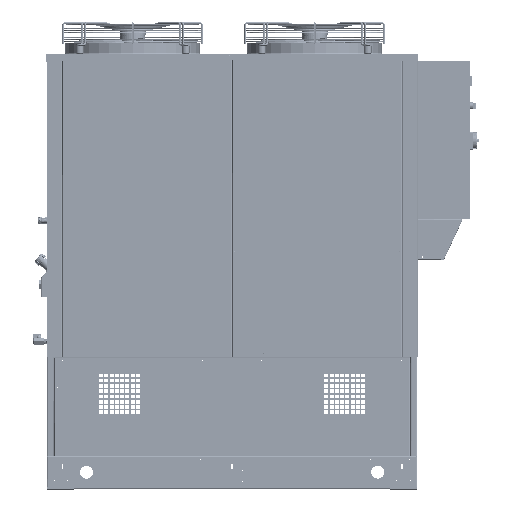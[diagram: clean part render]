
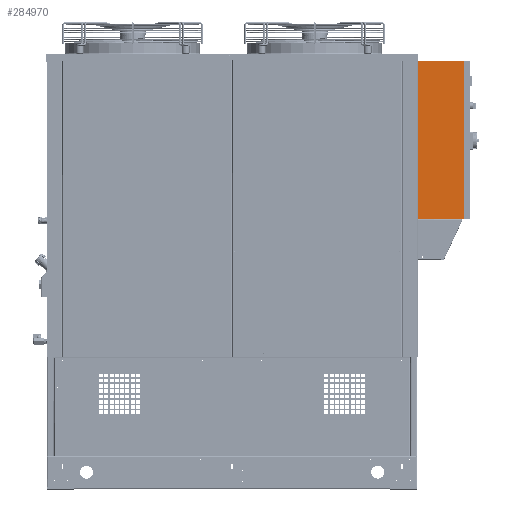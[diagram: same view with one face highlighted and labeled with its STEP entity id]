
A CAD part, top view. The second image highlights one B-rep face of the part: STEP entity #284970.
In plain terms, the highlighted planar face has unit normal (0, 0, 1) as drawn and (-1, 0, 0) by its records, which use the part's own axes.
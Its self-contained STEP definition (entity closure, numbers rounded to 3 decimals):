
#72281 = DIRECTION ( 'NONE',  ( 0., 0., 1. ) ) ;
#75410 = PLANE ( 'NONE',  #309617 ) ;
#82299 = EDGE_CURVE ( 'NONE', #234116, #402682, #238271, .T. ) ;
#90941 = LINE ( 'NONE', #538130, #438172 ) ;
#102537 = VECTOR ( 'NONE', #532177, 1000. ) ;
#111123 = EDGE_CURVE ( 'NONE', #402682, #446868, #393844, .T. ) ;
#150036 = CARTESIAN_POINT ( 'NONE',  ( -200., 300., 87.5 ) ) ;
#186811 = DIRECTION ( 'NONE',  ( 0., -1., 0. ) ) ;
#209850 = ORIENTED_EDGE ( 'NONE', *, *, #82299, .F. ) ;
#234116 = VERTEX_POINT ( 'NONE', #506732 ) ;
#238271 = LINE ( 'NONE', #385245, #102537 ) ;
#243758 = CARTESIAN_POINT ( 'NONE',  ( -200., 300., 87.5 ) ) ;
#247885 = EDGE_CURVE ( 'NONE', #234116, #325898, #90941, .T. ) ;
#277389 = EDGE_LOOP ( 'NONE', ( #523584, #407831, #209850, #469142 ) ) ;
#284970 = ADVANCED_FACE ( 'NONE', ( #468446 ), #75410, .F. ) ;
#309617 = AXIS2_PLACEMENT_3D ( 'NONE', #407870, #605950, #363080 ) ;
#325898 = VERTEX_POINT ( 'NONE', #601007 ) ;
#357897 = VECTOR ( 'NONE', #537653, 1000. ) ;
#363080 = DIRECTION ( 'NONE',  ( 0., 0., -1. ) ) ;
#385245 = CARTESIAN_POINT ( 'NONE',  ( -200., 300., 87.5 ) ) ;
#392371 = CARTESIAN_POINT ( 'NONE',  ( -200., -300., 87.5 ) ) ;
#393844 = LINE ( 'NONE', #243758, #357897 ) ;
#402682 = VERTEX_POINT ( 'NONE', #150036 ) ;
#407831 = ORIENTED_EDGE ( 'NONE', *, *, #111123, .F. ) ;
#407870 = CARTESIAN_POINT ( 'NONE',  ( -200., 300., 87.5 ) ) ;
#438172 = VECTOR ( 'NONE', #186811, 1000. ) ;
#446868 = VERTEX_POINT ( 'NONE', #392371 ) ;
#468446 = FACE_OUTER_BOUND ( 'NONE', #277389, .T. ) ;
#469142 = ORIENTED_EDGE ( 'NONE', *, *, #247885, .T. ) ;
#506732 = CARTESIAN_POINT ( 'NONE',  ( -200., 300., -87.5 ) ) ;
#519572 = CARTESIAN_POINT ( 'NONE',  ( -200., -300., 87.5 ) ) ;
#523584 = ORIENTED_EDGE ( 'NONE', *, *, #558588, .T. ) ;
#532177 = DIRECTION ( 'NONE',  ( 0., 0., 1. ) ) ;
#535251 = VECTOR ( 'NONE', #72281, 1000. ) ;
#537653 = DIRECTION ( 'NONE',  ( 0., -1., 0. ) ) ;
#538130 = CARTESIAN_POINT ( 'NONE',  ( -200., 300., -87.5 ) ) ;
#558588 = EDGE_CURVE ( 'NONE', #325898, #446868, #609173, .T. ) ;
#601007 = CARTESIAN_POINT ( 'NONE',  ( -200., -300., -87.5 ) ) ;
#605950 = DIRECTION ( 'NONE',  ( 1., 0., 0. ) ) ;
#609173 = LINE ( 'NONE', #519572, #535251 ) ;
